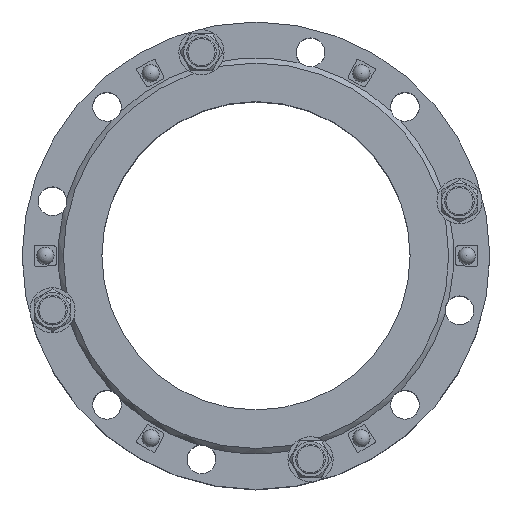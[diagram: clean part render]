
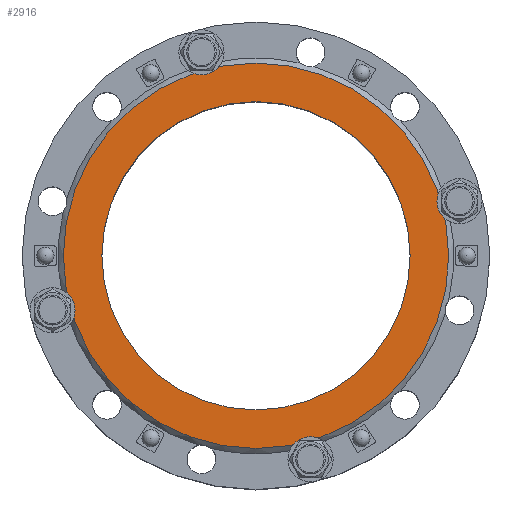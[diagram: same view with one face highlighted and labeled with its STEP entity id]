
A CAD part, top view. The second image highlights one B-rep face of the part: STEP entity #2916.
In plain terms, the highlighted planar face has unit normal (0, 0, 1) as drawn and (0, 0, -1) by its records, which use the part's own axes.
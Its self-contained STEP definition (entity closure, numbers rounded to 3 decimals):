
#2916=ADVANCED_FACE('',(#4433,#4435),#4437,.F.);
#4433=FACE_BOUND('',#4434,.T.);
#4434=EDGE_LOOP('',(#6491));
#4435=FACE_BOUND('',#4436,.T.);
#4436=EDGE_LOOP('',(#6492));
#4437=PLANE('',#4438);
#4438=AXIS2_PLACEMENT_3D('',#4439,#4440,#4441);
#4439=CARTESIAN_POINT('',(0.,0.,0.));
#4440=DIRECTION('',(0.,0.,1.));
#4441=DIRECTION('',(-1.,0.,0.));
#6491=ORIENTED_EDGE('',*,*,#7277,.F.);
#6492=ORIENTED_EDGE('',*,*,#7375,.T.);
#7277=EDGE_CURVE('',#8264,#8264,#8265,.T.);
#7375=EDGE_CURVE('',#8412,#8412,#8413,.T.);
#8264=VERTEX_POINT('',#15114);
#8265=CIRCLE('',#15115,187.5);
#8412=VERTEX_POINT('',#15484);
#8413=CIRCLE('',#15485,150.);
#15114=CARTESIAN_POINT('',(-187.5,0.,0.));
#15115=AXIS2_PLACEMENT_3D('',#15116,#15117,#15118);
#15116=CARTESIAN_POINT('',(0.,0.,0.));
#15117=DIRECTION('',(0.,0.,1.));
#15118=DIRECTION('',(-1.,0.,0.));
#15484=CARTESIAN_POINT('',(-150.,0.,0.));
#15485=AXIS2_PLACEMENT_3D('',#15486,#15487,#15488);
#15486=CARTESIAN_POINT('',(0.,0.,0.));
#15487=DIRECTION('',(0.,0.,1.));
#15488=DIRECTION('',(-1.,0.,0.));
